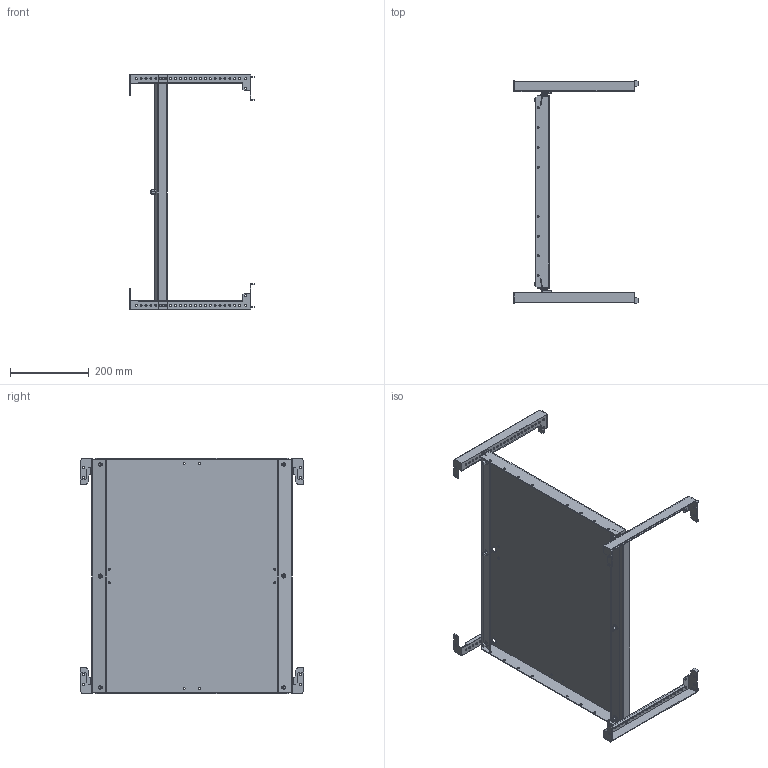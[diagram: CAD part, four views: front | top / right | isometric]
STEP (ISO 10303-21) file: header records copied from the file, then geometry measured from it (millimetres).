
FILE_DESCRIPTION (( 'STEP AP214' ), '1' );
FILE_NAME ('FO-00-MPU-045-080 Ïàíåëü ìîíòàæíàÿ óíèâåðñàëüíàÿ 450?800 ìì.STEP', '2025-07-16T07:08:14', ( '' ), ( '' ), 'SwSTEP 2.0', 'SolidWorks 2023', '' );
FILE_SCHEMA (( 'AUTOMOTIVE_DESIGN' ));
Length unit declared in the file: millimetre
Products named in the file (5): Траверса горизонтальная; FO-00-MPU-045-080 Панель монтажная универсальная 450×800 мм; Винты DIN 912 4xM6x20 450x800; Панель монтажная универсальная 450×800; Траверса горизонтальнаяD
Assembly tree (6 placements, depth 2):
  FO-00-MPU-045-080 Панель монтажная универсальная 450×800 мм
    Панель монтажная универсальная 450×800
    Винты DIN 912 4xM6x20 450x800
    Траверса горизонтальная  x2
    Траверса горизонтальнаяD  x2
Bounding box: 314.53 x 565.82 x 597 mm (x, y, z)
Volume: 1093604.4 mm3; surface area: 1116192.8 mm2
Topology: 9 solids, 15 shells, 1146 faces, 3064 edges, 2016 vertices
Faces by surface type: cylinder 516, plane 514, cone 76, torus 40
Entity records: 30511 total; most frequent: CARTESIAN_POINT 6615, DIRECTION 5076, ORIENTED_EDGE 4796, EDGE_CURVE 2398, AXIS2_PLACEMENT_3D 1865, VERTEX_POINT 1572, LINE 1346, VECTOR 1346
